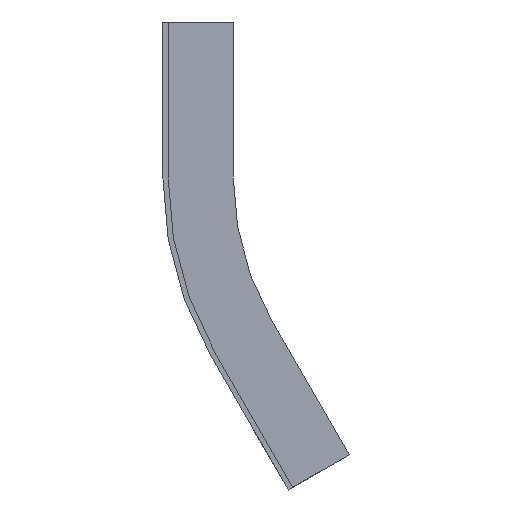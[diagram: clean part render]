
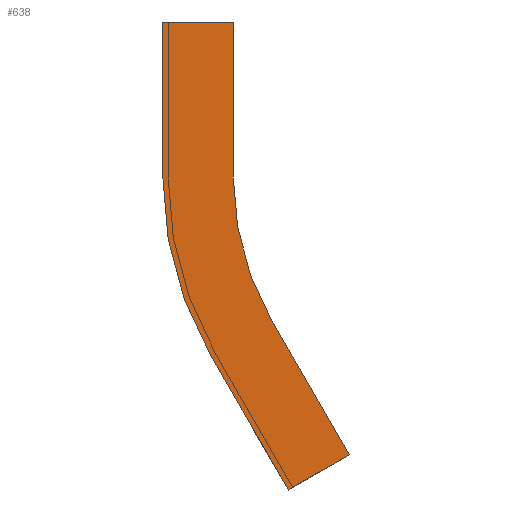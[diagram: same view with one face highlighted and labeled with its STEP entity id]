
A CAD part, left-side view. The second image highlights one B-rep face of the part: STEP entity #638.
In plain terms, the highlighted planar face has unit normal (-1, 0, 0).
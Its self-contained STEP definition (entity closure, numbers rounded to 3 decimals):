
#41 = AXIS2_PLACEMENT_3D ( 'NONE', #524, #796, #250 ) ;
#44 = LINE ( 'NONE', #448, #627 ) ;
#82 = CARTESIAN_POINT ( 'NONE',  ( -253.5, -52.919, -122.855 ) ) ;
#83 = VERTEX_POINT ( 'NONE', #767 ) ;
#89 = VECTOR ( 'NONE', #289, 1000. ) ;
#96 = CIRCLE ( 'NONE', #41, 101.5 ) ;
#105 = DIRECTION ( 'NONE',  ( -1., 0., 0. ) ) ;
#113 = DIRECTION ( 'NONE',  ( 0., 0., -1. ) ) ;
#137 = VERTEX_POINT ( 'NONE', #732 ) ;
#151 = VERTEX_POINT ( 'NONE', #303 ) ;
#167 = CARTESIAN_POINT ( 'NONE',  ( -253.5, -35.598, -132.855 ) ) ;
#179 = AXIS2_PLACEMENT_3D ( 'NONE', #438, #105, #636 ) ;
#201 = ORIENTED_EDGE ( 'NONE', *, *, #312, .F. ) ;
#205 = VERTEX_POINT ( 'NONE', #307 ) ;
#207 = CIRCLE ( 'NONE', #231, 81.5 ) ;
#211 = DIRECTION ( 'NONE',  ( 0., 0.5, 0.866 ) ) ;
#217 = EDGE_CURVE ( 'NONE', #776, #137, #207, .T. ) ;
#228 = LINE ( 'NONE', #167, #89 ) ;
#231 = AXIS2_PLACEMENT_3D ( 'NONE', #857, #528, #396 ) ;
#249 = ORIENTED_EDGE ( 'NONE', *, *, #723, .F. ) ;
#250 = DIRECTION ( 'NONE',  ( 0., 0., 1. ) ) ;
#266 = VERTEX_POINT ( 'NONE', #477 ) ;
#268 = ORIENTED_EDGE ( 'NONE', *, *, #835, .F. ) ;
#289 = DIRECTION ( 'NONE',  ( 0., 0.866, -0.5 ) ) ;
#299 = EDGE_CURVE ( 'NONE', #137, #266, #613, .T. ) ;
#303 = CARTESIAN_POINT ( 'NONE',  ( -253.5, -35.598, -132.855 ) ) ;
#307 = CARTESIAN_POINT ( 'NONE',  ( -253.5, -13.598, -94.75 ) ) ;
#312 = EDGE_CURVE ( 'NONE', #151, #205, #409, .T. ) ;
#318 = VECTOR ( 'NONE', #113, 1000. ) ;
#343 = ORIENTED_EDGE ( 'NONE', *, *, #621, .F. ) ;
#376 = FACE_OUTER_BOUND ( 'NONE', #739, .T. ) ;
#387 = CARTESIAN_POINT ( 'NONE',  ( -253.5, 0., -44. ) ) ;
#396 = DIRECTION ( 'NONE',  ( 0., 0., -1. ) ) ;
#404 = DIRECTION ( 'NONE',  ( 0., 0., 1. ) ) ;
#409 = LINE ( 'NONE', #814, #740 ) ;
#438 = CARTESIAN_POINT ( 'NONE',  ( -253.5, -101.5, -44. ) ) ;
#448 = CARTESIAN_POINT ( 'NONE',  ( -253.5, -20., 0. ) ) ;
#452 = ORIENTED_EDGE ( 'NONE', *, *, #217, .F. ) ;
#453 = DIRECTION ( 'NONE',  ( 0., -1., 0. ) ) ;
#467 = LINE ( 'NONE', #575, #556 ) ;
#472 = EDGE_CURVE ( 'NONE', #266, #151, #228, .T. ) ;
#477 = CARTESIAN_POINT ( 'NONE',  ( -253.5, -52.919, -122.855 ) ) ;
#524 = CARTESIAN_POINT ( 'NONE',  ( -253.5, -101.5, -44. ) ) ;
#528 = DIRECTION ( 'NONE',  ( -1., 0., 0. ) ) ;
#556 = VECTOR ( 'NONE', #404, 1000. ) ;
#575 = CARTESIAN_POINT ( 'NONE',  ( -253.5, 0., 0. ) ) ;
#581 = CARTESIAN_POINT ( 'NONE',  ( -253.5, -20., -44. ) ) ;
#588 = PLANE ( 'NONE',  #179 ) ;
#605 = DIRECTION ( 'NONE',  ( 0., -0.5, -0.866 ) ) ;
#613 = LINE ( 'NONE', #82, #822 ) ;
#614 = VERTEX_POINT ( 'NONE', #717 ) ;
#621 = EDGE_CURVE ( 'NONE', #83, #614, #44, .T. ) ;
#627 = VECTOR ( 'NONE', #453, 1000. ) ;
#636 = DIRECTION ( 'NONE',  ( 0., 0., 1. ) ) ;
#638 = ADVANCED_FACE ( 'NONE', ( #376 ), #588, .T. ) ;
#644 = CARTESIAN_POINT ( 'NONE',  ( -253.5, -20., -44. ) ) ;
#697 = VERTEX_POINT ( 'NONE', #387 ) ;
#715 = LINE ( 'NONE', #644, #318 ) ;
#717 = CARTESIAN_POINT ( 'NONE',  ( -253.5, -20., 0. ) ) ;
#723 = EDGE_CURVE ( 'NONE', #205, #697, #96, .T. ) ;
#732 = CARTESIAN_POINT ( 'NONE',  ( -253.5, -30.919, -84.75 ) ) ;
#739 = EDGE_LOOP ( 'NONE', ( #343, #859, #249, #201, #744, #807, #452, #268 ) ) ;
#740 = VECTOR ( 'NONE', #211, 1000. ) ;
#744 = ORIENTED_EDGE ( 'NONE', *, *, #472, .F. ) ;
#767 = CARTESIAN_POINT ( 'NONE',  ( -253.5, 0., 0. ) ) ;
#776 = VERTEX_POINT ( 'NONE', #581 ) ;
#796 = DIRECTION ( 'NONE',  ( 1., 0., 0. ) ) ;
#807 = ORIENTED_EDGE ( 'NONE', *, *, #299, .F. ) ;
#814 = CARTESIAN_POINT ( 'NONE',  ( -253.5, -13.598, -94.75 ) ) ;
#815 = EDGE_CURVE ( 'NONE', #697, #83, #467, .T. ) ;
#822 = VECTOR ( 'NONE', #605, 1000. ) ;
#835 = EDGE_CURVE ( 'NONE', #614, #776, #715, .T. ) ;
#857 = CARTESIAN_POINT ( 'NONE',  ( -253.5, -101.5, -44. ) ) ;
#859 = ORIENTED_EDGE ( 'NONE', *, *, #815, .F. ) ;
